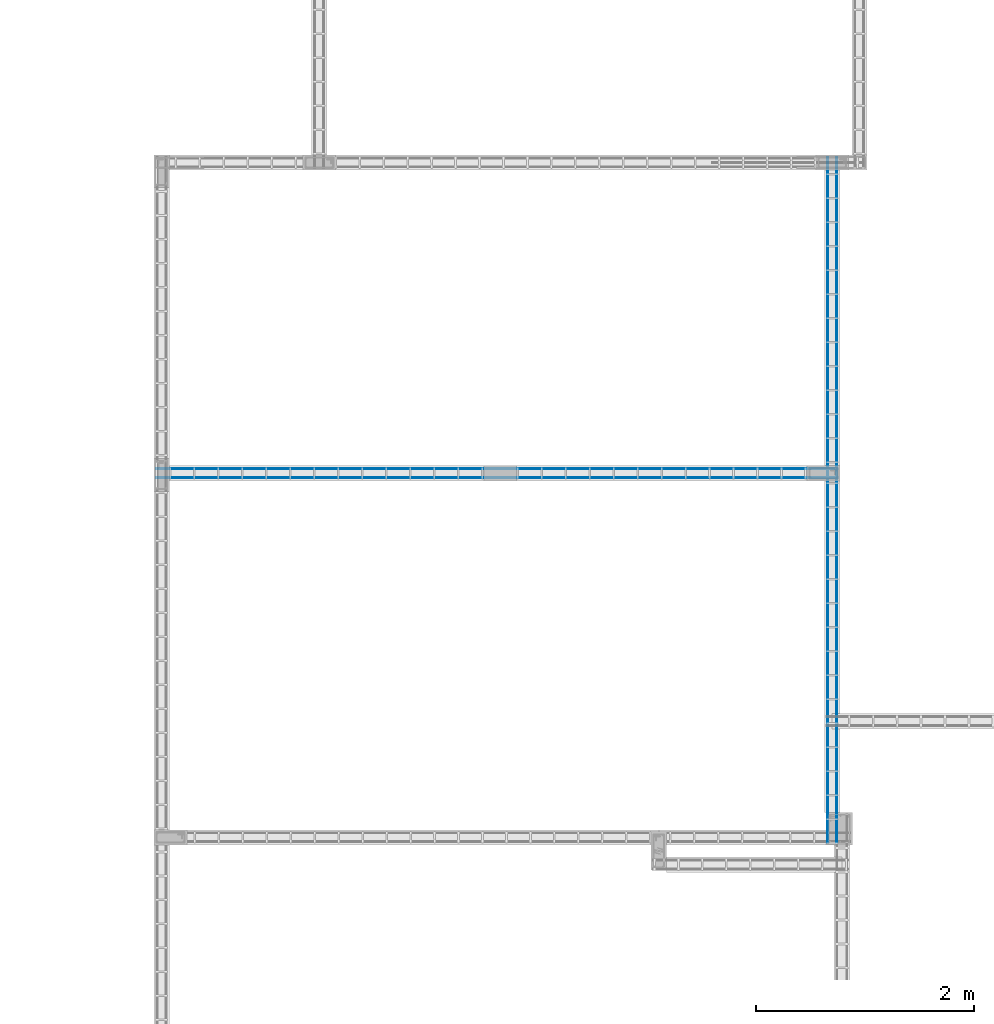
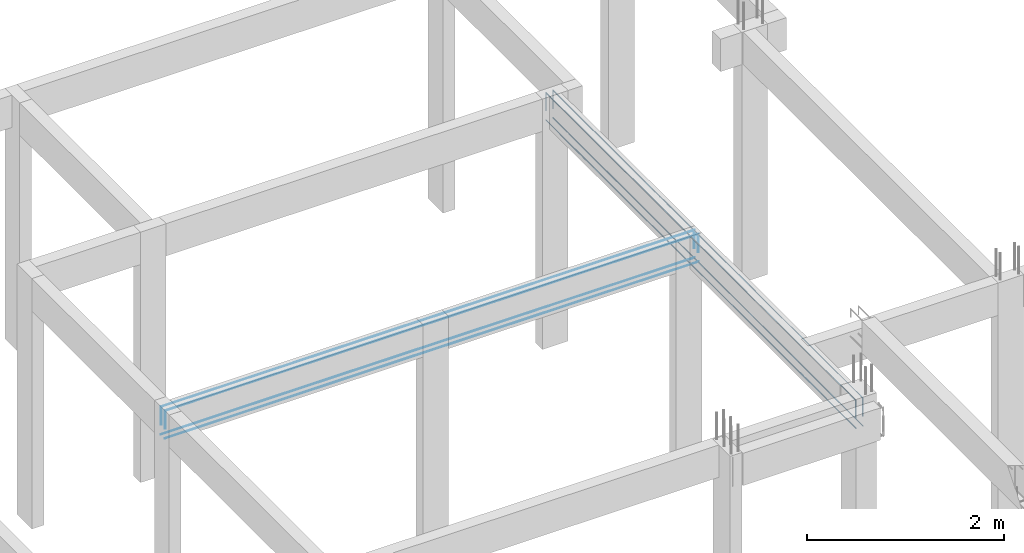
# One storey, part 98 of 236: 8 reinforcing bars.
"""IFC4 building model written with IfcOpenShell, lengths in centimetres."""

from ifc_helpers import new_model, entity, si_unit, derived_unit, frame, origin_with_axes, place, context, project, spatial, element, save


model = new_model("IFC4")

# Units and contexts
model_context = context("Model", 3, precision=1e-05, world=origin_with_axes(), identifier="Body")
ifc_project = project(units=[si_unit("LENGTHUNIT", "METRE", prefix="CENTI"), si_unit("VOLUMEUNIT", "CUBIC_METRE"), si_unit("AREAUNIT", "SQUARE_METRE"), si_unit("POWERUNIT", "WATT"), si_unit("LUMINOUSFLUXUNIT", "LUMEN"), si_unit("ELECTRICCURRENTUNIT", "AMPERE"), si_unit("PRESSUREUNIT", "PASCAL", prefix="KILO"), si_unit("MASSUNIT", "GRAM", prefix="KILO"), si_unit("PLANEANGLEUNIT", "RADIAN"), derived_unit("VOLUMETRICFLOWRATEUNIT", [(si_unit("LENGTHUNIT", "METRE"), 3), (si_unit("TIMEUNIT", "SECOND"), -1)])], contexts=[model_context])

# Site, building, storey
site_placement = place(None, frame((-4000.0, 0.0, 0.0), z_axis=(0.0, 0.0, 1.0), x_axis=(1.0, 0.0, 0.0)))
site = spatial("IfcSite", under=ifc_project, at=site_placement, Name="PADRÃO")
building_placement = place(site_placement, frame((0.0, 0.0, -14.0)))
building = spatial("IfcBuilding", under=site, at=building_placement, Name="CRECHE PRÉ-ESCOLA TIPO 2")
placement_1 = place(building_placement, origin_with_axes())
placement_2 = place(placement_1, frame((0.0, 0.0, 30.0), z_axis=(0.0, 0.0, 1.0), x_axis=(1.0, 0.0, 0.0)))
storey_placement = place(placement_2, frame((0.0, 0.0, 310.0), z_axis=(0.0, 0.0, 1.0), x_axis=(1.0, 0.0, 0.0)))
storey = spatial("IfcBuildingStorey", under=building, at=storey_placement, Name="TERREO", CompositionType="ELEMENT", Elevation=326.0)

# Reinforcing bars
for number, where, z_axis, x_axis, name in (
    (1, (2831.0, 2908.42, -36.7), (0.0, 0.0, 1.0), (1.0, 0.0, 0.0), "V222 - Longitudinal inferior"),
    (2, (2831.0, 2916.62, -36.7), (0.0, 0.0, 1.0), (1.0, 0.0, 0.0), "V222 - Longitudinal inferior"),
):
    element("IfcReinforcingBar", number, at=place(storey_placement, frame(where, z_axis=z_axis, x_axis=x_axis)), inside=storey, Name=name, BarLength=0.0, CrossSectionArea=5.0265482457e-05, NominalDiameter=0.8, PredefinedType="MAIN", context=model_context, shape_type="AdvancedSweptSolid", body=[
        entity("IfcSweptDiskSolid", entity("IfcCompositeCurve", [entity("IfcCompositeCurveSegment", "CONTINUOUS", True, entity("IfcPolyline", [entity("IfcCartesianPoint", [-312.5, 0.0, -0.4]), entity("IfcCartesianPoint", [312.5, 0.0, -0.4])]))], False), 0.4),
    ])
for number, where, z_axis, x_axis, name in (
    (3, (2831.0, 2908.42, -2.49624973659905), (0.0, 0.0, 1.0), (1.0, 0.0, 0.0), "V222 - Longitudinal superior"),
    (4, (2831.0, 2916.62, -2.49624973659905), (0.0, 0.0, 1.0), (1.0, 0.0, 0.0), "V222 - Longitudinal superior"),
):
    element("IfcReinforcingBar", number, at=place(storey_placement, frame(where, z_axis=z_axis, x_axis=x_axis)), inside=storey, Name=name, BarLength=0.0, CrossSectionArea=5.0265482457e-05, NominalDiameter=0.8, PredefinedType="MAIN", context=model_context, shape_type="AdvancedSweptSolid", body=[
        entity("IfcSweptDiskSolid", entity("IfcCompositeCurve", [entity("IfcCompositeCurveSegment", "CONTINUOUS", True, entity("IfcPolyline", [entity("IfcCartesianPoint", [-312.1, 0.0, -22.7014629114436]), entity("IfcCartesianPoint", [-312.1, 0.0, -0.403750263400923])])), entity("IfcCompositeCurveSegment", "CONTINUOUS", True, entity("IfcPolyline", [entity("IfcCartesianPoint", [-312.1, 0.0, -0.403750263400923]), entity("IfcCartesianPoint", [312.1, 0.0, -0.403750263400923])])), entity("IfcCompositeCurveSegment", "CONTINUOUS", True, entity("IfcPolyline", [entity("IfcCartesianPoint", [312.1, 0.0, -0.403750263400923]), entity("IfcCartesianPoint", [312.1, 0.0, -22.7014629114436])]))], False), 0.4),
    ])
for number, where, z_axis, x_axis, name in (
    (5, (3134.4, 2888.02, -36.7), (0.0, 0.0, 1.0), (1.0, 0.0, 0.0), "V308 - Longitudinal inferior"),
    (6, (3142.6, 2888.02, -36.7), (0.0, 0.0, 1.0), (1.0, 0.0, 0.0), "V308 - Longitudinal inferior"),
):
    element("IfcReinforcingBar", number, at=place(storey_placement, frame(where, z_axis=z_axis, x_axis=x_axis)), inside=storey, Name=name, BarLength=0.0, CrossSectionArea=5.0265482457e-05, NominalDiameter=0.8, PredefinedType="MAIN", context=model_context, shape_type="AdvancedSweptSolid", body=[
        entity("IfcSweptDiskSolid", entity("IfcCompositeCurve", [entity("IfcCompositeCurveSegment", "CONTINUOUS", True, entity("IfcPolyline", [entity("IfcCartesianPoint", [0.0, -314.5, -0.4]), entity("IfcCartesianPoint", [0.0, 314.5, -0.4])]))], False), 0.4),
    ])
for number, where, z_axis, x_axis, name in (
    (7, (3142.6, 2888.02, -2.49624973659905), (0.0, 0.0, 1.0), (1.0, 0.0, 0.0), "V308 - Longitudinal superior"),
    (8, (3134.4, 2888.02, -2.49624973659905), (0.0, 0.0, 1.0), (1.0, 0.0, 0.0), "V308 - Longitudinal superior"),
):
    element("IfcReinforcingBar", number, at=place(storey_placement, frame(where, z_axis=z_axis, x_axis=x_axis)), inside=storey, Name=name, BarLength=0.0, CrossSectionArea=5.0265482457e-05, NominalDiameter=0.8, PredefinedType="MAIN", context=model_context, shape_type="AdvancedSweptSolid", body=[
        entity("IfcSweptDiskSolid", entity("IfcCompositeCurve", [entity("IfcCompositeCurveSegment", "CONTINUOUS", True, entity("IfcPolyline", [entity("IfcCartesianPoint", [0.0, -314.1, -22.7014629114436]), entity("IfcCartesianPoint", [0.0, -314.1, -0.403750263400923])])), entity("IfcCompositeCurveSegment", "CONTINUOUS", True, entity("IfcPolyline", [entity("IfcCartesianPoint", [0.0, -314.1, -0.403750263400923]), entity("IfcCartesianPoint", [0.0, 314.1, -0.403750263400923])])), entity("IfcCompositeCurveSegment", "CONTINUOUS", True, entity("IfcPolyline", [entity("IfcCartesianPoint", [0.0, 314.1, -0.403750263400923]), entity("IfcCartesianPoint", [0.0, 314.1, -22.7014629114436])]))], False), 0.4),
    ])

save(model, "model.ifc")
